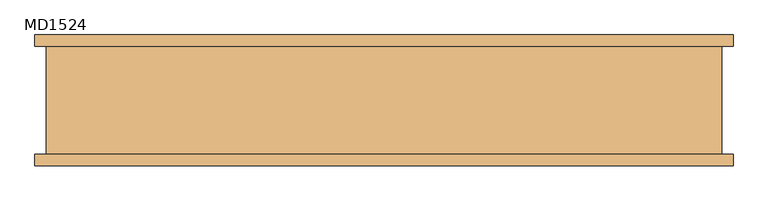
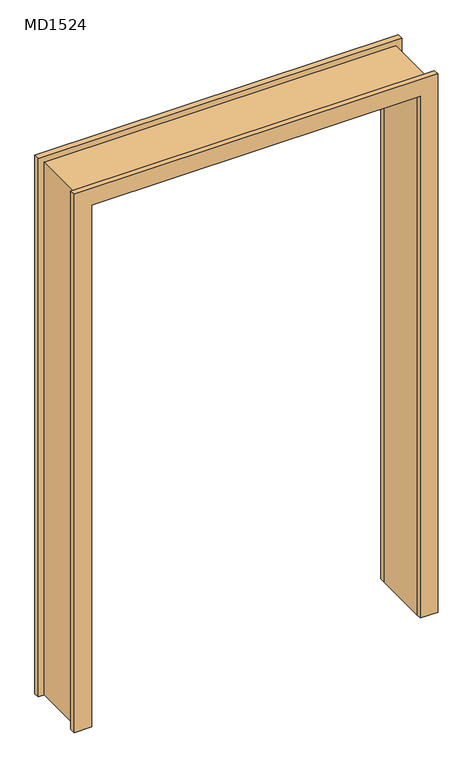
"""IFC4 building model written with IfcOpenShell, lengths in millimetres: door geometry, 门洞 : MD1524."""

from ifc_helpers import new_model, si_unit, frame, origin, place, context, project, spatial, polyline, outline, extrude, source, transform, mapped, element, save


def md1524_4945f9d6(model_context):
    return source(origin(), model_context, "Body", "SweptSolid", [
        extrude(outline(polyline([(2400.0, -750.0), (0.0, -750.0), (0.0, -700.0), (2350.0, -700.0), (2350.0, 700.0), (0.0, 700.0), (0.0, 750.0), (2400.0, 750.0), (2400.0, -750.0)])), frame((0.0, -120.0, 0.0), z_axis=(0.0, 1.0, 0.0), x_axis=(0.0, 0.0, 1.0)), (0.0, 0.0, 1.0), 240.0),
        extrude(outline(polyline([(2425.0, -775.0), (0.0, -775.0), (0.0, -700.0), (2350.0, -700.0), (2350.0, 700.0), (0.0, 700.0), (0.0, 775.0), (2425.0, 775.0), (2425.0, -775.0)])), frame((0.0, 120.0, 0.0), z_axis=(0.0, 1.0, 0.0), x_axis=(0.0, 0.0, 1.0)), (0.0, 0.0, 1.0), 25.0),
        extrude(outline(polyline([(2425.0, -775.0), (0.0, -775.0), (0.0, -700.0), (2350.0, -700.0), (2350.0, 700.0), (0.0, 700.0), (0.0, 775.0), (2425.0, 775.0), (2425.0, -775.0)])), frame((0.0, -145.0, 0.0), z_axis=(0.0, 1.0, 0.0), x_axis=(0.0, 0.0, 1.0)), (0.0, 0.0, 1.0), 25.0),
    ])


if __name__ == "__main__":
    model = new_model("IFC4")
    model_context = context("Model", 3, world=origin())
    ifc_project = project(units=[si_unit("LENGTHUNIT", "METRE", prefix="MILLI")], contexts=[model_context])
    site = spatial("IfcSite", under=ifc_project)
    building = spatial("IfcBuilding", under=site)
    placement = place(None, origin())
    md1524_shape = md1524_4945f9d6(model_context)
    element("IfcDoor", 1, ObjectType="门洞 : MD1524", at=placement, inside=building, context=model_context, shape_type="MappedRepresentation", body=[
        mapped(md1524_shape, transform((0.0, 0.0, 0.0), x_axis=(1.0, 0.0, 0.0), y_axis=(0.0, 1.0, 0.0), z_axis=(0.0, 0.0, 1.0))),
    ])
    save(model, "model.ifc")
